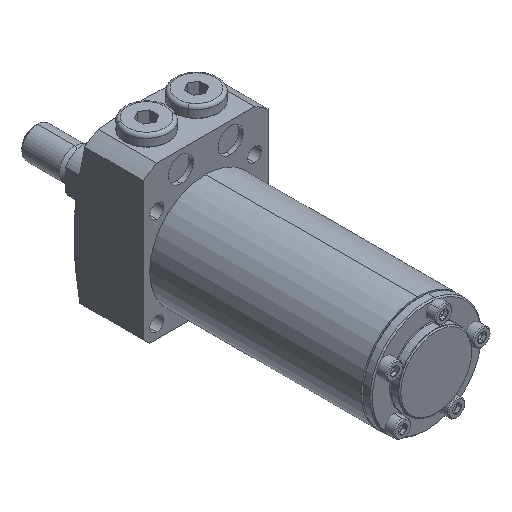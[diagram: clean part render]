
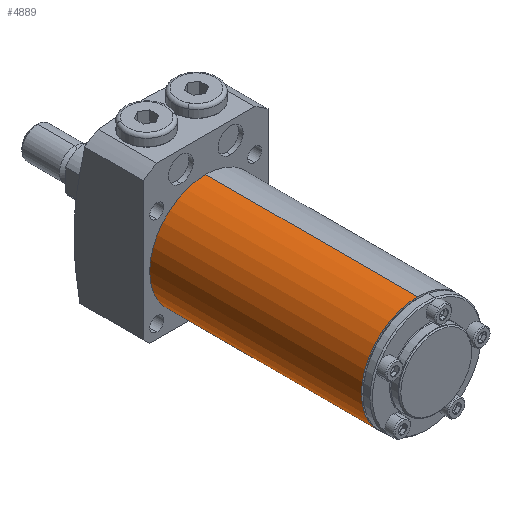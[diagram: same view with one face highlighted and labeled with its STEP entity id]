
A CAD part, isometric view. The second image highlights one B-rep face of the part: STEP entity #4889.
In plain terms, the highlighted cylindrical face has radius 18 mm (diameter 36 mm), a partial arc.
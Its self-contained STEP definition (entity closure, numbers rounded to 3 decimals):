
#727 = EDGE_CURVE ( 'NONE', #2032, #2037, #5290, .T. ) ;
#729 = EDGE_CURVE ( 'NONE', #2031, #2036, #5295, .T. ) ;
#773 = VECTOR ( 'NONE', #5300, 1000. ) ;
#817 = ORIENTED_EDGE ( 'NONE', *, *, #727, .F. ) ;
#818 = ORIENTED_EDGE ( 'NONE', *, *, #2219, .T. ) ;
#819 = ORIENTED_EDGE ( 'NONE', *, *, #729, .T. ) ;
#820 = ORIENTED_EDGE ( 'NONE', *, *, #2216, .F. ) ;
#1536 = CARTESIAN_POINT ( 'NONE',  ( 0., -68., 18. ) ) ;
#1537 = CARTESIAN_POINT ( 'NONE',  ( 0., -68., -18. ) ) ;
#1541 = CARTESIAN_POINT ( 'NONE',  ( 0., 0., 18. ) ) ;
#1542 = CARTESIAN_POINT ( 'NONE',  ( 0., 0., -18. ) ) ;
#1737 = CARTESIAN_POINT ( 'NONE',  ( 0., 0., 0. ) ) ;
#1738 = DIRECTION ( 'NONE',  ( 0., 1., 0. ) ) ;
#1739 = DIRECTION ( 'NONE',  ( 0., 0., 1. ) ) ;
#1744 = CARTESIAN_POINT ( 'NONE',  ( 0., -68., 0. ) ) ;
#1745 = DIRECTION ( 'NONE',  ( 0., 1., 0. ) ) ;
#1746 = DIRECTION ( 'NONE',  ( 0., 0., 1. ) ) ;
#2031 = VERTEX_POINT ( 'NONE', #1536 ) ;
#2032 = VERTEX_POINT ( 'NONE', #1537 ) ;
#2036 = VERTEX_POINT ( 'NONE', #1541 ) ;
#2037 = VERTEX_POINT ( 'NONE', #1542 ) ;
#2216 = EDGE_CURVE ( 'NONE', #2037, #2036, #5821, .T. ) ;
#2219 = EDGE_CURVE ( 'NONE', #2032, #2031, #5826, .T. ) ;
#3498 = VECTOR ( 'NONE', #5294, 1000. ) ;
#4418 = EDGE_LOOP ( 'NONE', ( #817, #818, #819, #820 ) ) ;
#4889 = ADVANCED_FACE ( 'NONE', ( #6374 ), #6376, .T. ) ;
#5287 = CARTESIAN_POINT ( 'NONE',  ( 0., -68., -18. ) ) ;
#5289 = CARTESIAN_POINT ( 'NONE',  ( 0., -68., 18. ) ) ;
#5290 = LINE ( 'NONE', #5287, #3498 ) ;
#5294 = DIRECTION ( 'NONE',  ( 0., 1., 0. ) ) ;
#5295 = LINE ( 'NONE', #5289, #773 ) ;
#5300 = DIRECTION ( 'NONE',  ( 0., 1., 0. ) ) ;
#5821 = CIRCLE ( 'NONE', #5824, 18. ) ;
#5824 = AXIS2_PLACEMENT_3D ( 'NONE', #1737, #1738, #1739 ) ;
#5826 = CIRCLE ( 'NONE', #5828, 18. ) ;
#5828 = AXIS2_PLACEMENT_3D ( 'NONE', #1744, #1745, #1746 ) ;
#6026 = AXIS2_PLACEMENT_3D ( 'NONE', #6375, #6369, #6377 ) ;
#6369 = DIRECTION ( 'NONE',  ( 0., 1., 0. ) ) ;
#6374 = FACE_OUTER_BOUND ( 'NONE', #4418, .T. ) ;
#6375 = CARTESIAN_POINT ( 'NONE',  ( 0., -68., 0. ) ) ;
#6376 = CYLINDRICAL_SURFACE ( 'NONE', #6026, 18. ) ;
#6377 = DIRECTION ( 'NONE',  ( 0., 0., 1. ) ) ;
